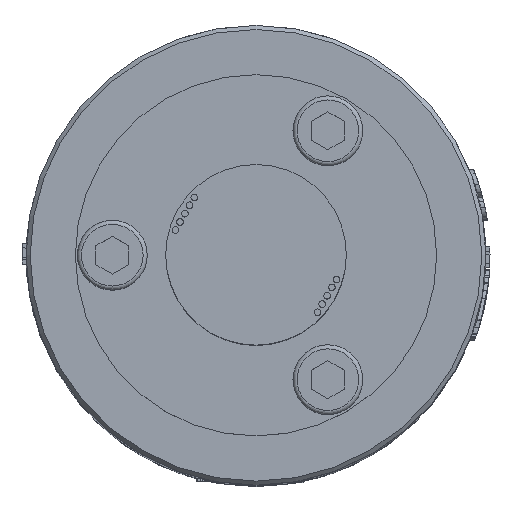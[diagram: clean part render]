
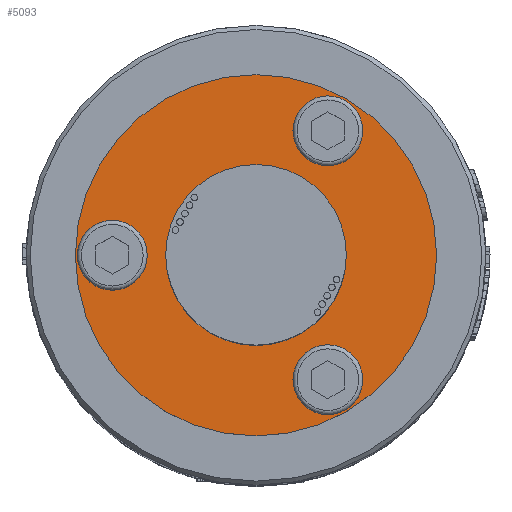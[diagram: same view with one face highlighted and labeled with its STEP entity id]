
A CAD part, top view. The second image highlights one B-rep face of the part: STEP entity #5093.
In plain terms, the highlighted planar face has unit normal (0, 0, 1).
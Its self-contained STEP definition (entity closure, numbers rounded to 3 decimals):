
#543=FACE_BOUND('',#8140,.T.);
#544=FACE_BOUND('',#8141,.T.);
#545=FACE_BOUND('',#8142,.T.);
#546=FACE_BOUND('',#8143,.T.);
#547=FACE_BOUND('',#8144,.T.);
#910=CIRCLE('',#23071,4.25);
#912=CIRCLE('',#23082,4.25);
#915=CIRCLE('',#23095,4.25);
#939=CIRCLE('',#23152,11.);
#940=CIRCLE('',#23154,22.);
#5093=ADVANCED_FACE('',(#543,#544,#545,#546,#547),#6079,.T.);
#6079=PLANE('',#23155);
#8140=EDGE_LOOP('',(#11955));
#8141=EDGE_LOOP('',(#11956));
#8142=EDGE_LOOP('',(#11957));
#8143=EDGE_LOOP('',(#11958));
#8144=EDGE_LOOP('',(#11959));
#11955=ORIENTED_EDGE('',*,*,#19235,.F.);
#11956=ORIENTED_EDGE('',*,*,#19249,.F.);
#11957=ORIENTED_EDGE('',*,*,#19270,.F.);
#11958=ORIENTED_EDGE('',*,*,#19313,.T.);
#11959=ORIENTED_EDGE('',*,*,#19312,.F.);
#16679=VERTEX_POINT('',#35737);
#16687=VERTEX_POINT('',#35768);
#16702=VERTEX_POINT('',#35814);
#16738=VERTEX_POINT('',#35925);
#16739=VERTEX_POINT('',#35928);
#19235=EDGE_CURVE('',#16679,#16679,#910,.T.);
#19249=EDGE_CURVE('',#16687,#16687,#912,.T.);
#19270=EDGE_CURVE('',#16702,#16702,#915,.T.);
#19312=EDGE_CURVE('',#16738,#16738,#939,.T.);
#19313=EDGE_CURVE('',#16739,#16739,#940,.T.);
#23071=AXIS2_PLACEMENT_3D('',#35736,#25245,#25246);
#23082=AXIS2_PLACEMENT_3D('',#35767,#25279,#25280);
#23095=AXIS2_PLACEMENT_3D('',#35813,#25323,#25324);
#23152=AXIS2_PLACEMENT_3D('',#35924,#25455,#25456);
#23154=AXIS2_PLACEMENT_3D('',#35927,#25459,#25460);
#23155=AXIS2_PLACEMENT_3D('',#35929,#25461,#25462);
#25245=DIRECTION('',(0.,0.,1.));
#25246=DIRECTION('',(-0.866,0.5,0.));
#25279=DIRECTION('',(0.,0.,1.));
#25280=DIRECTION('',(-0.866,0.5,0.));
#25323=DIRECTION('',(0.,0.,1.));
#25324=DIRECTION('',(-0.866,0.5,0.));
#25455=DIRECTION('',(0.,0.,1.));
#25456=DIRECTION('',(0.866,-0.5,0.));
#25459=DIRECTION('',(0.,0.,1.));
#25460=DIRECTION('',(0.866,-0.5,0.));
#25461=DIRECTION('',(0.,0.,1.));
#25462=DIRECTION('',(-0.866,0.5,0.));
#35736=CARTESIAN_POINT('',(8.75,-15.155,118.5));
#35737=CARTESIAN_POINT('',(5.069,-13.03,118.5));
#35767=CARTESIAN_POINT('',(8.75,15.155,118.5));
#35768=CARTESIAN_POINT('',(5.069,17.28,118.5));
#35813=CARTESIAN_POINT('',(-17.5,0.,118.5));
#35814=CARTESIAN_POINT('',(-21.181,2.125,118.5));
#35924=CARTESIAN_POINT('',(0.,0.,118.5));
#35925=CARTESIAN_POINT('',(9.526,-5.5,118.5));
#35927=CARTESIAN_POINT('',(0.,0.,118.5));
#35928=CARTESIAN_POINT('',(19.053,-11.,118.5));
#35929=CARTESIAN_POINT('',(0.,0.,118.5));
